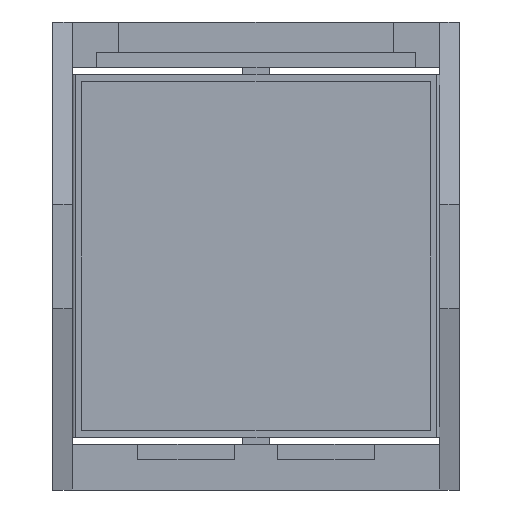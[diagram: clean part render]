
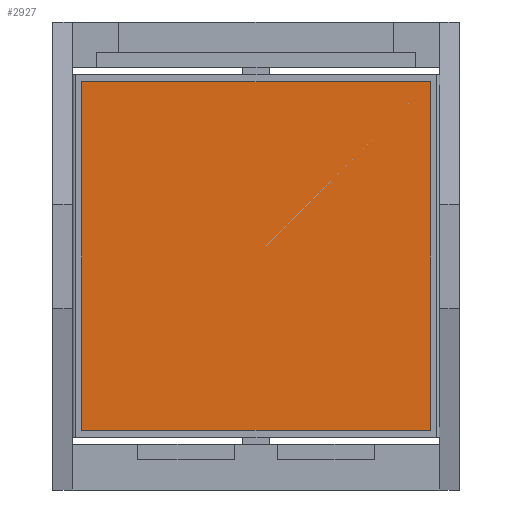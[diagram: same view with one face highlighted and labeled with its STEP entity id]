
A CAD part, front view. The second image highlights one B-rep face of the part: STEP entity #2927.
In plain terms, the highlighted planar face has unit normal (0, -1, 0).
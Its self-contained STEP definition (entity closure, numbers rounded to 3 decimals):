
#102 = VERTEX_POINT ( 'NONE', #490 ) ;
#358 = ORIENTED_EDGE ( 'NONE', *, *, #4415, .F. ) ;
#490 = CARTESIAN_POINT ( 'NONE',  ( 12.7, -0.127, 12.7 ) ) ;
#520 = DIRECTION ( 'NONE',  ( 0., 0., -1. ) ) ;
#549 = CARTESIAN_POINT ( 'NONE',  ( -12.7, -0.127, 12.7 ) ) ;
#1218 = CARTESIAN_POINT ( 'NONE',  ( 12.7, -0.127, -12.7 ) ) ;
#1563 = VERTEX_POINT ( 'NONE', #5359 ) ;
#1649 = ORIENTED_EDGE ( 'NONE', *, *, #4487, .F. ) ;
#1817 = LINE ( 'NONE', #4303, #7241 ) ;
#1873 = EDGE_CURVE ( 'NONE', #102, #7983, #6841, .T. ) ;
#2158 = DIRECTION ( 'NONE',  ( 1., 0., 0. ) ) ;
#2927 = ADVANCED_FACE ( 'NONE', ( #6785 ), #6000, .F. ) ;
#3077 = DIRECTION ( 'NONE',  ( -1., 0., 0. ) ) ;
#3506 = ORIENTED_EDGE ( 'NONE', *, *, #6298, .F. ) ;
#3981 = CARTESIAN_POINT ( 'NONE',  ( -12.7, -0.127, -12.7 ) ) ;
#4303 = CARTESIAN_POINT ( 'NONE',  ( -12.7, -0.127, -12.7 ) ) ;
#4415 = EDGE_CURVE ( 'NONE', #1563, #5765, #6534, .T. ) ;
#4487 = EDGE_CURVE ( 'NONE', #7983, #1563, #1817, .T. ) ;
#4737 = VECTOR ( 'NONE', #520, 1000. ) ;
#5275 = LINE ( 'NONE', #7092, #5390 ) ;
#5327 = CARTESIAN_POINT ( 'NONE',  ( -12.7, -0.127, 12.7 ) ) ;
#5359 = CARTESIAN_POINT ( 'NONE',  ( -12.7, -0.127, -12.7 ) ) ;
#5390 = VECTOR ( 'NONE', #2158, 1000. ) ;
#5442 = EDGE_LOOP ( 'NONE', ( #358, #1649, #5693, #3506 ) ) ;
#5693 = ORIENTED_EDGE ( 'NONE', *, *, #1873, .F. ) ;
#5765 = VERTEX_POINT ( 'NONE', #5327 ) ;
#5914 = DIRECTION ( 'NONE',  ( 0., 0., 1. ) ) ;
#6000 = PLANE ( 'NONE',  #7574 ) ;
#6164 = DIRECTION ( 'NONE',  ( 0., 1., 0. ) ) ;
#6298 = EDGE_CURVE ( 'NONE', #5765, #102, #5275, .T. ) ;
#6534 = LINE ( 'NONE', #3981, #7502 ) ;
#6681 = CARTESIAN_POINT ( 'NONE',  ( 12.7, -0.127, -12.7 ) ) ;
#6785 = FACE_OUTER_BOUND ( 'NONE', #5442, .T. ) ;
#6841 = LINE ( 'NONE', #1218, #4737 ) ;
#7092 = CARTESIAN_POINT ( 'NONE',  ( -12.7, -0.127, 12.7 ) ) ;
#7241 = VECTOR ( 'NONE', #3077, 1000. ) ;
#7427 = DIRECTION ( 'NONE',  ( 0., 0., 1. ) ) ;
#7502 = VECTOR ( 'NONE', #5914, 1000. ) ;
#7574 = AXIS2_PLACEMENT_3D ( 'NONE', #549, #6164, #7427 ) ;
#7983 = VERTEX_POINT ( 'NONE', #6681 ) ;
